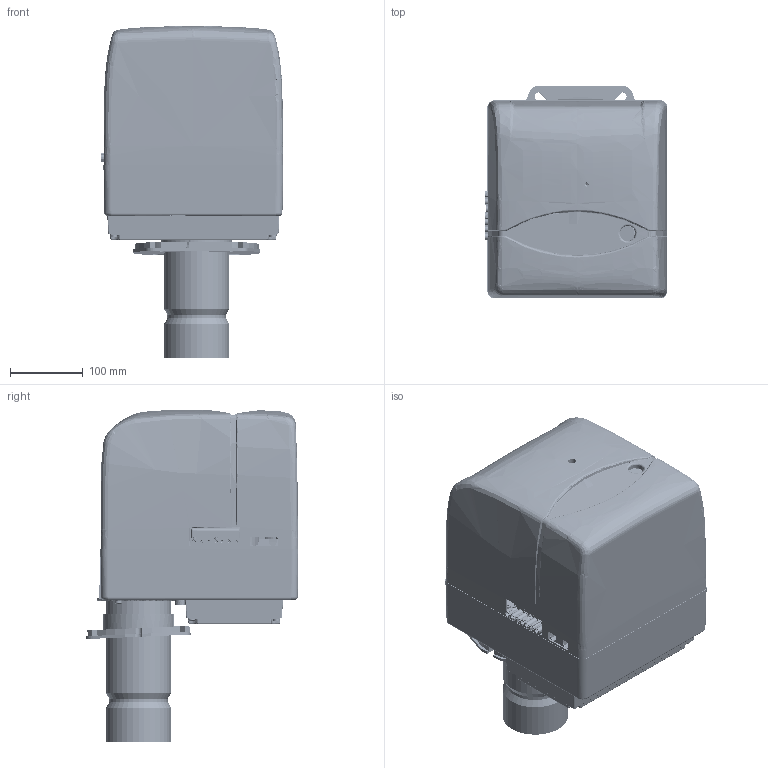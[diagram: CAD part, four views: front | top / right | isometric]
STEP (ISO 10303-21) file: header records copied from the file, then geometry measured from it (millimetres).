
FILE_DESCRIPTION (( 'STEP AP214' ), '1' );
FILE_NAME ('17170010-BTG 12.STEP', '2024-02-14T11:18:18', ( '' ), ( '' ), 'SwSTEP 2.0', 'SolidWorks 2021', '' );
FILE_SCHEMA (( 'AUTOMOTIVE_DESIGN' ));
Length unit declared in the file: millimetre
Products named in the file (1): 17170010-BTG 12
Bounding box: 250.31 x 292.03 x 455.18 mm (x, y, z)
Surface area: 1522273.6 mm2 (no closed solid volume)
Topology: 0 solids, 79 shells, 10368 faces, 26060 edges, 16015 vertices
Faces by surface type: plane 4121, bspline 3637, cylinder 2010, cone 358, torus 153, sphere 89
Full cylindrical faces by diameter (mm): 0.5 x1, 1 x1, 2 x4, 2.45 x1, 2.5 x3, 2.69 x2, 2.7 x2, 2.75 x1, 3 x11, 3.2 x1, 3.3 x4, 3.4 x1, 3.5 x1, 3.8 x1, 3.95 x4, 4 x12, 4.15 x6, 4.2 x13, 4.5 x26, 4.7 x3, 4.8 x3, 4.9 x5, 4.969 x12, 5 x32, 5.2 x4, 5.3 x1, 5.4 x1, 5.5 x11, 6 x17, 6.1 x1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
Entity records: 648224 total; most frequent: CARTESIAN_POINT 327169, ORIENTED_EDGE 49977, DIRECTION 28195, EDGE_CURVE 25001, VERTEX_POINT 15806, B_SPLINE_CURVE_WITH_KNOTS 11791, EDGE_LOOP 11660, FACE_OUTER_BOUND 10831
